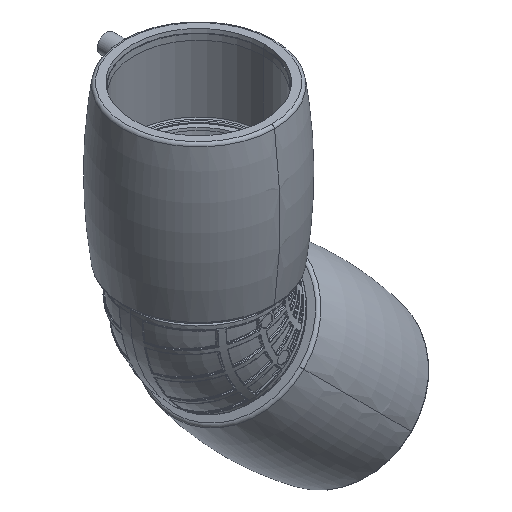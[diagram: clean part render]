
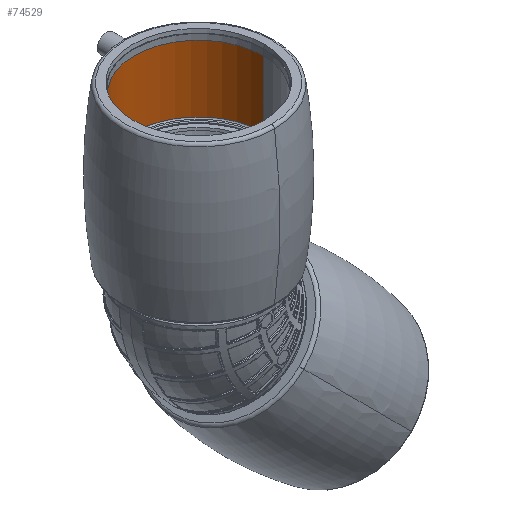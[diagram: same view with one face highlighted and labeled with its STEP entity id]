
A CAD part, isometric view. The second image highlights one B-rep face of the part: STEP entity #74529.
In plain terms, the highlighted cylindrical face has radius 55.4 mm (diameter 110.8 mm), a partial arc.
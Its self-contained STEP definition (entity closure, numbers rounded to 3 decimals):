
#193 = EDGE_CURVE ( 'NONE', #17723, #21786, #17942, .T. ) ;
#1281 = AXIS2_PLACEMENT_3D ( 'NONE', #51676, #70635, #86843 ) ;
#1329 = CIRCLE ( 'NONE', #6843, 55.4 ) ;
#3649 = ORIENTED_EDGE ( 'NONE', *, *, #11399, .F. ) ;
#4430 = CARTESIAN_POINT ( 'NONE',  ( 0., 0., 160.581 ) ) ;
#6843 = AXIS2_PLACEMENT_3D ( 'NONE', #11876, #21112, #74159 ) ;
#7568 = CARTESIAN_POINT ( 'NONE',  ( -55.4, 0., 103.581 ) ) ;
#10562 = EDGE_LOOP ( 'NONE', ( #3649, #64693, #15013, #42721 ) ) ;
#11399 = EDGE_CURVE ( 'NONE', #79989, #47543, #13882, .T. ) ;
#11876 = CARTESIAN_POINT ( 'NONE',  ( 0., 0., 103.581 ) ) ;
#13882 = LINE ( 'NONE', #38703, #81178 ) ;
#15013 = ORIENTED_EDGE ( 'NONE', *, *, #193, .T. ) ;
#16485 = FACE_OUTER_BOUND ( 'NONE', #10562, .T. ) ;
#17723 = VERTEX_POINT ( 'NONE', #50805 ) ;
#17942 = LINE ( 'NONE', #95849, #62037 ) ;
#21112 = DIRECTION ( 'NONE',  ( 0., 0., -1. ) ) ;
#21786 = VERTEX_POINT ( 'NONE', #7568 ) ;
#31173 = DIRECTION ( 'NONE',  ( 0., 0., -1. ) ) ;
#31300 = CARTESIAN_POINT ( 'NONE',  ( 55.4, 0., 160.581 ) ) ;
#38703 = CARTESIAN_POINT ( 'NONE',  ( 55.4, 0., 24.619 ) ) ;
#42721 = ORIENTED_EDGE ( 'NONE', *, *, #56659, .T. ) ;
#45785 = CIRCLE ( 'NONE', #71532, 55.4 ) ;
#47543 = VERTEX_POINT ( 'NONE', #49436 ) ;
#49436 = CARTESIAN_POINT ( 'NONE',  ( 55.4, 0., 103.581 ) ) ;
#50121 = EDGE_CURVE ( 'NONE', #17723, #79989, #45785, .T. ) ;
#50805 = CARTESIAN_POINT ( 'NONE',  ( -55.4, 0., 160.581 ) ) ;
#51676 = CARTESIAN_POINT ( 'NONE',  ( 0., 0., 24.619 ) ) ;
#56659 = EDGE_CURVE ( 'NONE', #21786, #47543, #1329, .T. ) ;
#62037 = VECTOR ( 'NONE', #70397, 1000. ) ;
#64693 = ORIENTED_EDGE ( 'NONE', *, *, #50121, .F. ) ;
#70397 = DIRECTION ( 'NONE',  ( 0., 0., -1. ) ) ;
#70635 = DIRECTION ( 'NONE',  ( 0., 0., -1. ) ) ;
#71532 = AXIS2_PLACEMENT_3D ( 'NONE', #4430, #74781, #101374 ) ;
#74159 = DIRECTION ( 'NONE',  ( -1., 0., 0. ) ) ;
#74529 = ADVANCED_FACE ( 'NONE', ( #16485 ), #87403, .F. ) ;
#74781 = DIRECTION ( 'NONE',  ( 0., 0., -1. ) ) ;
#79989 = VERTEX_POINT ( 'NONE', #31300 ) ;
#81178 = VECTOR ( 'NONE', #31173, 1000. ) ;
#86843 = DIRECTION ( 'NONE',  ( -1., 0., 0. ) ) ;
#87403 = CYLINDRICAL_SURFACE ( 'NONE', #1281, 55.4 ) ;
#95849 = CARTESIAN_POINT ( 'NONE',  ( -55.4, 0., 24.619 ) ) ;
#101374 = DIRECTION ( 'NONE',  ( -1., 0., 0. ) ) ;
